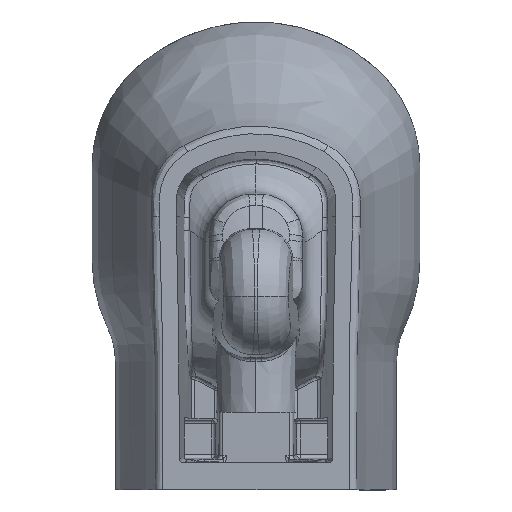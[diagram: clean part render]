
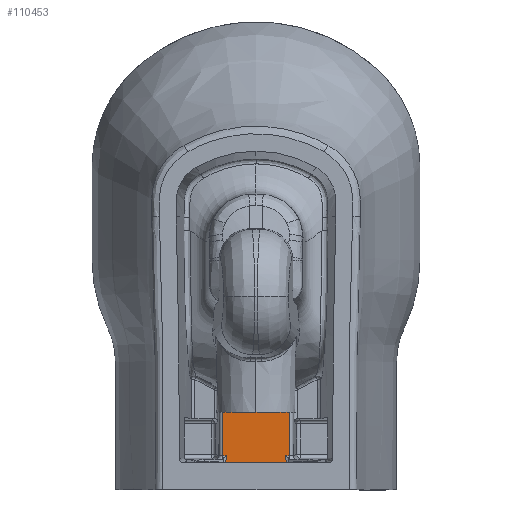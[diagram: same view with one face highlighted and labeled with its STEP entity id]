
A CAD part, front view. The second image highlights one B-rep face of the part: STEP entity #110453.
In plain terms, the highlighted planar face has unit normal (0, -0.999, -0.035).
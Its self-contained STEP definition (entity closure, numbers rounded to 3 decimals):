
#562 = CARTESIAN_POINT ( 'NONE',  ( -38.993, -104.641, 24.556 ) ) ;
#813 = CARTESIAN_POINT ( 'NONE',  ( -36.687, -104.65, 24.826 ) ) ;
#1514 = DIRECTION ( 'NONE',  ( -0.002, 0.035, -0.999 ) ) ;
#1660 = VERTEX_POINT ( 'NONE', #107676 ) ;
#3501 =( BOUNDED_CURVE ( )  B_SPLINE_CURVE ( 3, ( #45073, #46577, #58762, #813 ),
 .UNSPECIFIED., .F., .F. ) 
 B_SPLINE_CURVE_WITH_KNOTS ( ( 4, 4 ),
 ( 2.909, 3.142 ),
 .UNSPECIFIED. ) 
 CURVE ( )  GEOMETRIC_REPRESENTATION_ITEM ( )  RATIONAL_B_SPLINE_CURVE ( ( 1., 0.995, 0.995, 1. ) ) 
 REPRESENTATION_ITEM ( '' )  );
#5195 = CARTESIAN_POINT ( 'NONE',  ( 24.761, -108.402, 132.259 ) ) ;
#5210 = CARTESIAN_POINT ( 'NONE',  ( 38.42, -105.32, 44.01 ) ) ;
#5528 = DIRECTION ( 'NONE',  ( 1., 0., 0. ) ) ;
#5958 = CARTESIAN_POINT ( 'NONE',  ( 42.262, -108.502, 135.129 ) ) ;
#6016 = CARTESIAN_POINT ( 'NONE',  ( 37.465, -104.65, 24.826 ) ) ;
#6717 = CARTESIAN_POINT ( 'NONE',  ( 38.784, -108.477, 134.423 ) ) ;
#6734 = LINE ( 'NONE', #5210, #47778 ) ;
#9254 = VECTOR ( 'NONE', #28778, 1000. ) ;
#9809 = CARTESIAN_POINT ( 'NONE',  ( -7.1, -108.349, 130.767 ) ) ;
#11313 = CARTESIAN_POINT ( 'NONE',  ( 0., -108.349, 130.767 ) ) ;
#11968 = CARTESIAN_POINT ( 'NONE',  ( -39.113, -104.536, 21.559 ) ) ;
#13039 = DIRECTION ( 'NONE',  ( 0.002, 0.035, -0.999 ) ) ;
#15354 = VECTOR ( 'NONE', #99961, 1000. ) ;
#15920 = EDGE_CURVE ( 'NONE', #136275, #40178, #3501, .T. ) ;
#28778 = DIRECTION ( 'NONE',  ( 1., 0., 0. ) ) ;
#29289 = B_SPLINE_CURVE_WITH_KNOTS ( 'NONE', 3,
 ( #11313, #9809, #70770, #58568, #117300, #102855, #102113, #56315 ),
 .UNSPECIFIED., .F., .F.,
 ( 4, 2, 2, 4 ),
 ( 0., 0.021, 0.032, 0.043 ),
 .UNSPECIFIED. ) ;
#31152 = CARTESIAN_POINT ( 'NONE',  ( 38.237, -104.647, 24.735 ) ) ;
#31174 = DIRECTION ( 'NONE',  ( 0., -0.999, -0.035 ) ) ;
#40178 = VERTEX_POINT ( 'NONE', #96348 ) ;
#40693 = VERTEX_POINT ( 'NONE', #135980 ) ;
#41092 = CARTESIAN_POINT ( 'NONE',  ( 36.687, -104.65, 24.826 ) ) ;
#45073 = CARTESIAN_POINT ( 'NONE',  ( -38.993, -104.641, 24.556 ) ) ;
#46577 = CARTESIAN_POINT ( 'NONE',  ( -38.237, -104.647, 24.735 ) ) ;
#47778 = VECTOR ( 'NONE', #99773, 1000. ) ;
#48023 = CARTESIAN_POINT ( 'NONE',  ( -42.473, -104.484, 20.078 ) ) ;
#48571 = VERTEX_POINT ( 'NONE', #56950 ) ;
#51266 = CARTESIAN_POINT ( 'NONE',  ( -38.217, -105.32, 44.01 ) ) ;
#52672 = CARTESIAN_POINT ( 'NONE',  ( 39.113, -104.536, 21.559 ) ) ;
#53276 = CARTESIAN_POINT ( 'NONE',  ( 38.993, -104.641, 24.556 ) ) ;
#53396 =( BOUNDED_CURVE ( )  B_SPLINE_CURVE ( 3, ( #53276, #31152, #6016, #41092 ),
 .UNSPECIFIED., .F., .T. ) 
 B_SPLINE_CURVE_WITH_KNOTS ( ( 4, 4 ),
 ( 2.909, 3.142 ),
 .UNSPECIFIED. ) 
 CURVE ( )  GEOMETRIC_REPRESENTATION_ITEM ( )  RATIONAL_B_SPLINE_CURVE ( ( 1., 0.995, 0.995, 1. ) ) 
 REPRESENTATION_ITEM ( '' )  );
#54181 = VERTEX_POINT ( 'NONE', #57106 ) ;
#56184 = EDGE_CURVE ( 'NONE', #40178, #40693, #113212, .T. ) ;
#56315 = CARTESIAN_POINT ( 'NONE',  ( -42.262, -108.502, 135.129 ) ) ;
#56883 = ORIENTED_EDGE ( 'NONE', *, *, #95859, .F. ) ;
#56950 = CARTESIAN_POINT ( 'NONE',  ( 42.262, -108.502, 135.129 ) ) ;
#57106 = CARTESIAN_POINT ( 'NONE',  ( 42.429, -105.32, 44.01 ) ) ;
#58475 = DIRECTION ( 'NONE',  ( -0.04, 0.035, -0.999 ) ) ;
#58568 = CARTESIAN_POINT ( 'NONE',  ( -24.761, -108.402, 132.259 ) ) ;
#58762 = CARTESIAN_POINT ( 'NONE',  ( -37.465, -104.65, 24.826 ) ) ;
#58964 = ORIENTED_EDGE ( 'NONE', *, *, #104642, .F. ) ;
#63934 = VERTEX_POINT ( 'NONE', #98757 ) ;
#63954 = ORIENTED_EDGE ( 'NONE', *, *, #84659, .T. ) ;
#64530 = ORIENTED_EDGE ( 'NONE', *, *, #105639, .T. ) ;
#64669 = CARTESIAN_POINT ( 'NONE',  ( 7.1, -108.349, 130.767 ) ) ;
#66248 = CARTESIAN_POINT ( 'NONE',  ( 0., -104.481, 20. ) ) ;
#66997 = FACE_OUTER_BOUND ( 'NONE', #105634, .T. ) ;
#67169 = VECTOR ( 'NONE', #13039, 1000. ) ;
#69198 = B_SPLINE_CURVE_WITH_KNOTS ( 'NONE', 3,
 ( #132585, #64669, #122639, #5195, #98240, #85293, #6717, #5958 ),
 .UNSPECIFIED., .F., .F.,
 ( 4, 2, 2, 4 ),
 ( 0., 0.021, 0.032, 0.043 ),
 .UNSPECIFIED. ) ;
#70770 = CARTESIAN_POINT ( 'NONE',  ( -14.177, -108.363, 131.152 ) ) ;
#73909 = EDGE_CURVE ( 'NONE', #130205, #144467, #29289, .T. ) ;
#74243 = ORIENTED_EDGE ( 'NONE', *, *, #15920, .T. ) ;
#75563 = EDGE_CURVE ( 'NONE', #54181, #63934, #6734, .T. ) ;
#79951 = PLANE ( 'NONE',  #115656 ) ;
#80961 = CARTESIAN_POINT ( 'NONE',  ( 42.473, -104.484, 20.078 ) ) ;
#82522 = ORIENTED_EDGE ( 'NONE', *, *, #84977, .F. ) ;
#84659 = EDGE_CURVE ( 'NONE', #144467, #150663, #142583, .T. ) ;
#84977 = EDGE_CURVE ( 'NONE', #1660, #40693, #53396, .T. ) ;
#85293 = CARTESIAN_POINT ( 'NONE',  ( 35.292, -108.455, 133.799 ) ) ;
#94425 = EDGE_CURVE ( 'NONE', #150663, #125097, #142858, .T. ) ;
#95437 = ORIENTED_EDGE ( 'NONE', *, *, #56184, .T. ) ;
#95859 = EDGE_CURVE ( 'NONE', #48571, #54181, #103095, .T. ) ;
#96348 = CARTESIAN_POINT ( 'NONE',  ( -36.687, -104.65, 24.826 ) ) ;
#98240 = CARTESIAN_POINT ( 'NONE',  ( 28.282, -108.418, 132.717 ) ) ;
#98757 = CARTESIAN_POINT ( 'NONE',  ( 38.217, -105.32, 44.01 ) ) ;
#99773 = DIRECTION ( 'NONE',  ( -1., 0., 0. ) ) ;
#99961 = DIRECTION ( 'NONE',  ( 0.04, 0.035, -0.999 ) ) ;
#100552 = ORIENTED_EDGE ( 'NONE', *, *, #135629, .F. ) ;
#102113 = CARTESIAN_POINT ( 'NONE',  ( -38.784, -108.477, 134.423 ) ) ;
#102855 = CARTESIAN_POINT ( 'NONE',  ( -35.292, -108.455, 133.799 ) ) ;
#103095 = LINE ( 'NONE', #80961, #67169 ) ;
#103780 = VECTOR ( 'NONE', #5528, 1000. ) ;
#104642 = EDGE_CURVE ( 'NONE', #130205, #48571, #69198, .T. ) ;
#105634 = EDGE_LOOP ( 'NONE', ( #63954, #113177, #64530, #74243, #95437, #82522, #100552, #125492, #56883, #58964, #131112 ) ) ;
#105639 = EDGE_CURVE ( 'NONE', #125097, #136275, #105763, .T. ) ;
#105763 = LINE ( 'NONE', #11968, #108321 ) ;
#107676 = CARTESIAN_POINT ( 'NONE',  ( 38.993, -104.641, 24.556 ) ) ;
#108321 = VECTOR ( 'NONE', #58475, 1000. ) ;
#110453 = ADVANCED_FACE ( 'NONE', ( #66997 ), #79951, .T. ) ;
#113177 = ORIENTED_EDGE ( 'NONE', *, *, #94425, .T. ) ;
#113212 = LINE ( 'NONE', #133301, #9254 ) ;
#115656 = AXIS2_PLACEMENT_3D ( 'NONE', #66248, #31174, #135702 ) ;
#117300 = CARTESIAN_POINT ( 'NONE',  ( -28.282, -108.418, 132.717 ) ) ;
#122639 = CARTESIAN_POINT ( 'NONE',  ( 14.177, -108.363, 131.152 ) ) ;
#125097 = VERTEX_POINT ( 'NONE', #51266 ) ;
#125492 = ORIENTED_EDGE ( 'NONE', *, *, #75563, .F. ) ;
#130205 = VERTEX_POINT ( 'NONE', #137721 ) ;
#131112 = ORIENTED_EDGE ( 'NONE', *, *, #73909, .T. ) ;
#132032 = LINE ( 'NONE', #52672, #15354 ) ;
#132585 = CARTESIAN_POINT ( 'NONE',  ( 0., -108.349, 130.767 ) ) ;
#133301 = CARTESIAN_POINT ( 'NONE',  ( 0., -104.65, 24.826 ) ) ;
#133911 = CARTESIAN_POINT ( 'NONE',  ( -42.262, -108.502, 135.129 ) ) ;
#135583 = VECTOR ( 'NONE', #1514, 1000. ) ;
#135629 = EDGE_CURVE ( 'NONE', #63934, #1660, #132032, .T. ) ;
#135702 = DIRECTION ( 'NONE',  ( 0., 0.035, -0.999 ) ) ;
#135980 = CARTESIAN_POINT ( 'NONE',  ( 36.687, -104.65, 24.826 ) ) ;
#136275 = VERTEX_POINT ( 'NONE', #562 ) ;
#136448 = CARTESIAN_POINT ( 'NONE',  ( -42.429, -105.32, 44.01 ) ) ;
#137721 = CARTESIAN_POINT ( 'NONE',  ( 0., -108.349, 130.767 ) ) ;
#142583 = LINE ( 'NONE', #48023, #135583 ) ;
#142858 = LINE ( 'NONE', #143602, #103780 ) ;
#143602 = CARTESIAN_POINT ( 'NONE',  ( -38.42, -105.32, 44.01 ) ) ;
#144467 = VERTEX_POINT ( 'NONE', #133911 ) ;
#150663 = VERTEX_POINT ( 'NONE', #136448 ) ;
